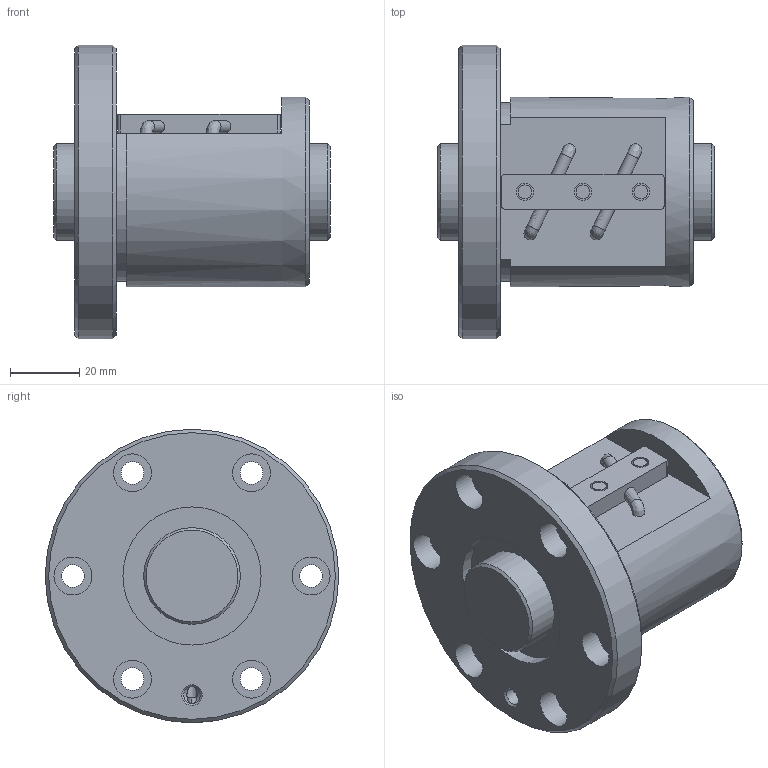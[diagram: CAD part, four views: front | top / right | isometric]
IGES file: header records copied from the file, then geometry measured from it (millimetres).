
Start section: Data from Parasolid IGES Translator 26.0.171, Copyright(c) 2006 Siemens PLM Software. All Rights Reserved.
Global section: file name: BNF2806V-5RRG1+80LC0_000_rev.igs; native system: By Siemens PLM Incorporated; preprocessor: XPlus GENERIC/IGES 26.0.171; author: Noname; organization: Noname; date: 20240806.073051; units: millimetre
Bounding box: 80 x 85 x 85 mm (x, y, z)
Surface area: 40792.5 mm2 (no closed solid volume)
Topology: 0 solids, 0 shells, 80 faces, 378 edges, 334 vertices
Faces by surface type: revolution 51, extrusion 29
